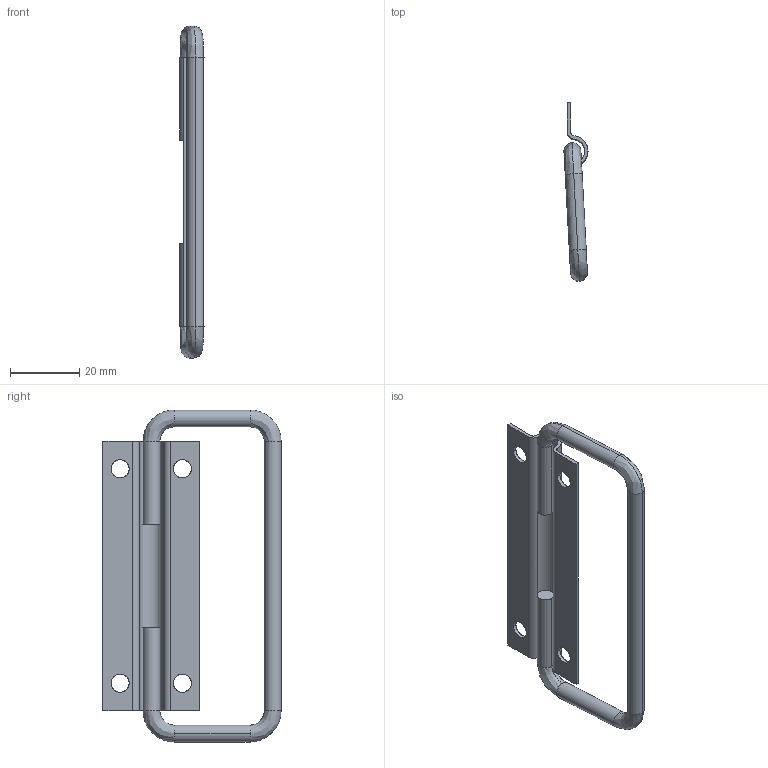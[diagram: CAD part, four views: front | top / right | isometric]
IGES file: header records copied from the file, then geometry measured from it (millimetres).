
Start section: SolidWorks IGES FILE using analytic representation for surfaces
Global section: file name: C:\Documents and Settings\lecoutey\Bureau\PX 399\PX 399.IGS; native system: SolidWorks 2004 by SolidWorks Corporation; preprocessor: Version 5.3; author: lecoutey; date: 050408.172837; units: millimetre
Bounding box: 6.95 x 51.55 x 96 mm (x, y, z)
Surface area: 8604.7 mm2 (no closed solid volume)
Topology: 0 solids, 0 shells, 42 faces, 604 edges, 604 vertices
Faces by surface type: revolution 24, bspline 18
